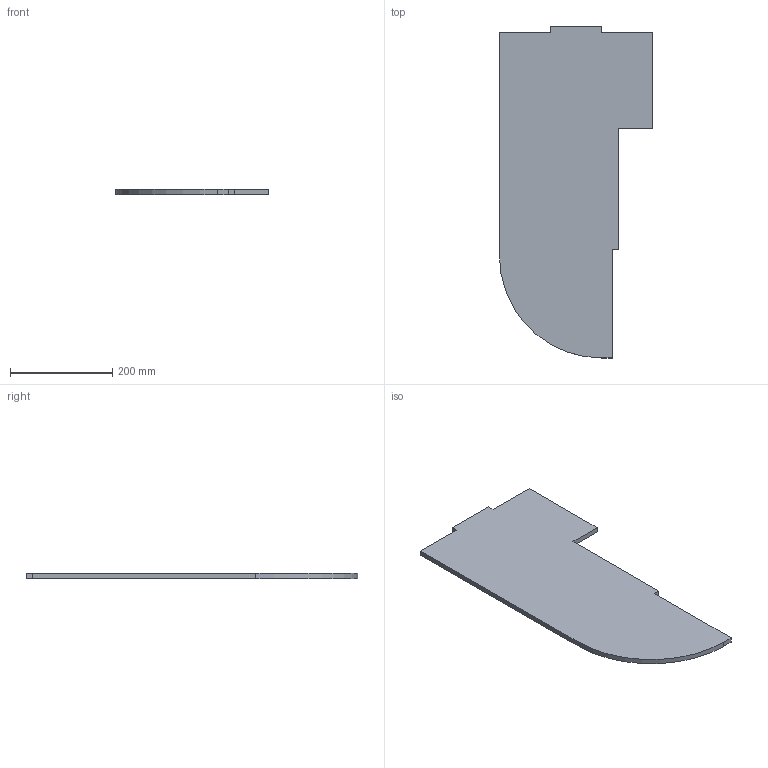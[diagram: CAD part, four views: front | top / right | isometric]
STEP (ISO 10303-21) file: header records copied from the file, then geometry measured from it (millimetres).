
FILE_DESCRIPTION (( 'STEP AP214' ), '1' );
FILE_NAME ('upp down.STEP', '2024-10-17T16:03:24', ( '' ), ( '' ), 'SwSTEP 2.0', 'SolidWorks 2020', '' );
FILE_SCHEMA (( 'AUTOMOTIVE_DESIGN' ));
Length unit declared in the file: millimetre
Products named in the file (1): upp down
Bounding box: 300 x 650 x 10 mm (x, y, z)
Volume: 1514686.8 mm3; surface area: 321079 mm2
Topology: 1 solids, 1 shells, 15 faces, 39 edges, 26 vertices
Faces by surface type: plane 14, cylinder 1
Entity records: 489 total; most frequent: CARTESIAN_POINT 81, ORIENTED_EDGE 78, DIRECTION 73, EDGE_CURVE 39, VECTOR 37, LINE 37, VERTEX_POINT 26, AXIS2_PLACEMENT_3D 18
